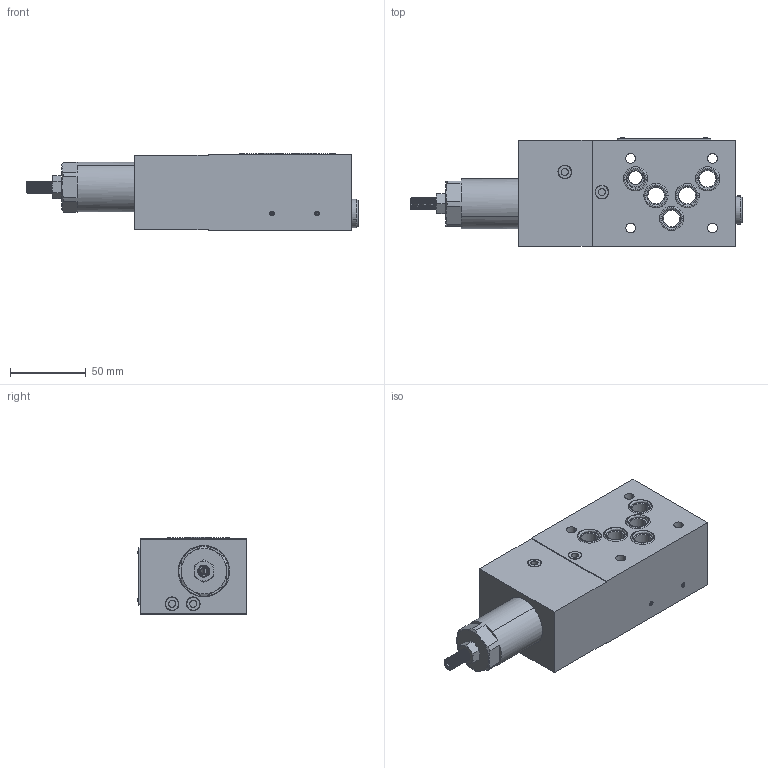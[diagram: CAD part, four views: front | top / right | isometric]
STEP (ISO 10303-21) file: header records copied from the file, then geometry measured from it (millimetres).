
FILE_DESCRIPTION (( 'STEP AP214' ), '1' );
FILE_NAME ('ASSIEME 376-4-A-12-05.STEP', '2019-12-04T08:59:20', ( '' ), ( '' ), 'SwSTEP 2.0', 'SolidWorks 2018', '' );
FILE_SCHEMA (( 'AUTOMOTIVE_DESIGN' ));
Length unit declared in the file: millimetre
Products named in the file (1): ASSIEME 376-4-A-12-05
Bounding box: 219.21 x 71.66 x 50.88 mm (x, y, z)
Surface area: 69028.5 mm2 (no closed solid volume)
Topology: 0 solids, 63 shells, 781 faces, 3748 edges, 2975 vertices
Faces by surface type: plane 409, cone 172, cylinder 131, bspline 59, sphere 8, torus 2
Entity records: 56399 total; most frequent: CARTESIAN_POINT 19881, ORIENTED_EDGE 5094, DIRECTION 5014, EDGE_CURVE 3746, VERTEX_POINT 2975, LINE 2422, VECTOR 2422, AXIS2_PLACEMENT_3D 1296
